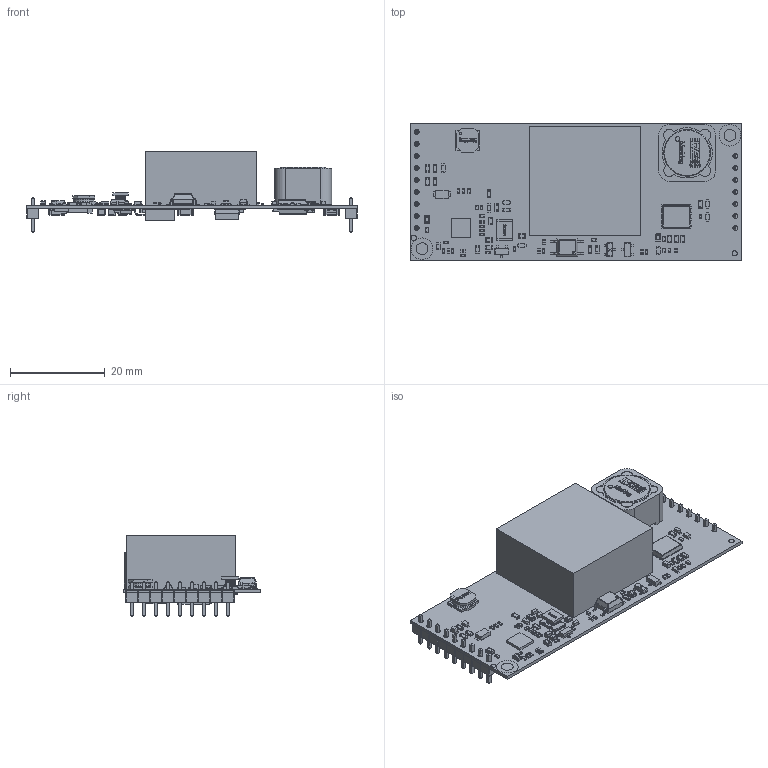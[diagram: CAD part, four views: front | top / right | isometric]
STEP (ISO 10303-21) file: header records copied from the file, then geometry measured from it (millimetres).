
FILE_DESCRIPTION(/* description */ ('PCB Design'),/* implementation_level */ '2;1');
FILE_NAME(/* name */ 'PEM93XXBT_PM934H1PER2XHS_19',/* time_stamp */ '2025-03-18T12:52:25+05:00',/* author */ (''),/* organization */ (''),/* preprocessor_version */ 'ST-DEVELOPER v16',/* originating_system */ 'allegro_22.1S003',/* authorisation */ '');
FILE_SCHEMA (('AUTOMOTIVE_DESIGN { 1 0 10303 214 3 1 1 }'));
Length unit declared in the file: millimetre
Products named in the file (91): PEM93XXBT_PM934H1PER2XHS_19; BOARD_OUTLINE; COMPONENTS; MCS_TRFR_EFD20_12P; FIDUCIAL; MCS_BERG_1X9; DIODE603X85N; DO-219_AD; DO-219AB; MCS_BERG_1X7; SOT23-3; IND12X12; RES2512; IND5X5; KTA1142; IND_1812; POWERPAK_3X3; DDPAK_TO-252-3; 4P5; CAPC3216X180N; RES3216X180N; MH-2P5; RES1608X90N; RES1005X55N; DO214AC; SOD523; CAPC2012X135N; CAPC1005X55N; CAPC1608X90N; SOT-23; LTV-357T_SMD-4; MOSFET-DFN5X6; P9101-09-A0B5-1; P9101-07-A0B5-1; 0.64 sq mm; 19-21SYGCS530-E2TR8; ASSEMBLY; Body; Pins; SMF Package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
Assembly tree (196 placements, depth 5):
  PEM93XXBT_PM934H1PER2XHS_19
    BOARD_OUTLINE
    COMPONENTS
      MCS_TRFR_EFD20_12P
      FIDUCIAL  x4
      MCS_BERG_1X9
        P9101-09-A0B5-1
          P9101-07-A0B5-1
          0.64 sq mm  x9
      DIODE603X85N
        19-21SYGCS530-E2TR8
      DO-219_AD  x2
        ASSEMBLY
          Body
          Pins
      DO-219AB
        SMF Package
      MCS_BERG_1X7
        P9101-07-A0B5-1
          P9101-07-A0B5-1_1
          0.64 sq mm  x7
      SOT23-3
        SOT23
          SOT23 lower body
          SOT23 Lead  x3
          SOT23 Upper body
      IND12X12
        74477030
      RES2512
        ASSEMBLY
          term1
          term2
          body
      IND5X5
        Assem1
          housing
          contact  x2
          Glue
      KTA1142
      IND_1812
        Assem1
          Kern
          Kern
          Pin
          Pin
      POWERPAK_3X3
        SIS468DN-T1-GE3
      DDPAK_TO-252-3
        product
      4P5
      CAPC3216X180N  x14
        ASSEMBLY
          Fillet1
          Fillet2
          body2
      RES3216X180N  x5
        Document
      MH-2P5  x2
      RES1608X90N  x12
        Document
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Bounding box: 70 x 29 x 17.26 mm (x, y, z)
Volume: 1480.2 mm3; surface area: 11137.3 mm2
Topology: 409 solids, 419 shells, 5346 faces, 12431 edges, 7660 vertices
Faces by surface type: plane 3238, cylinder 1081, bspline 664, sphere 292, torus 33, extrusion 32, cone 6
Full cylindrical faces by diameter (mm): 0.18 x45, 0.337 x1, 3 x2
Entity records: 92074 total; most frequent: CARTESIAN_POINT 21170, ORIENTED_EDGE 10704, DIRECTION 10684, EDGE_CURVE 5376, VECTOR 4675, LINE 4643, VERTEX_POINT 3558, AXIS2_PLACEMENT_3D 3293
